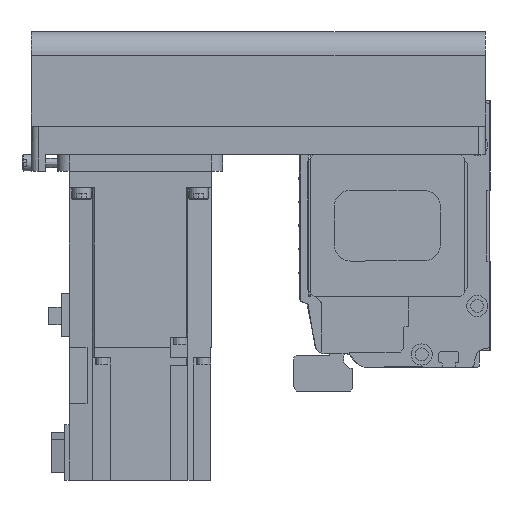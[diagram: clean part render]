
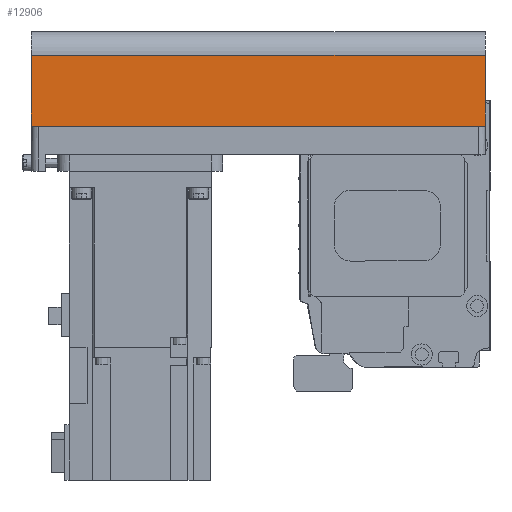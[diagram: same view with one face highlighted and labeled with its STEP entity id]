
A CAD part, left-side view. The second image highlights one B-rep face of the part: STEP entity #12906.
In plain terms, the highlighted planar face has unit normal (-1, 0, 0) as drawn and (0, 1, 0) by its records, which use the part's own axes.
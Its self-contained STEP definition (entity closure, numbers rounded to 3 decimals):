
#2303=ORIENTED_EDGE('',*,*,#5213,.F.);
#2304=ORIENTED_EDGE('',*,*,#5245,.F.);
#2305=ORIENTED_EDGE('',*,*,#5200,.T.);
#2306=ORIENTED_EDGE('',*,*,#5185,.T.);
#5185=EDGE_CURVE('',#6799,#6800,#8099,.T.);
#5200=EDGE_CURVE('',#6811,#6799,#8112,.T.);
#5213=EDGE_CURVE('',#6821,#6800,#8121,.T.);
#5245=EDGE_CURVE('',#6811,#6821,#8133,.T.);
#6799=VERTEX_POINT('',#20195);
#6800=VERTEX_POINT('',#20196);
#6811=VERTEX_POINT('',#20224);
#6821=VERTEX_POINT('',#20251);
#8099=LINE('',#20194,#9327);
#8112=LINE('',#20223,#9340);
#8121=LINE('',#20250,#9349);
#8133=LINE('',#20305,#9361);
#9327=VECTOR('',#16190,1000.);
#9340=VECTOR('',#16211,1000.);
#9349=VECTOR('',#16236,1000.);
#9361=VECTOR('',#16314,1000.);
#10416=EDGE_LOOP('',(#2303,#2304,#2305,#2306));
#11454=FACE_BOUND('',#10416,.T.);
#12325=PLANE('',#13925);
#12906=ADVANCED_FACE('',(#11454),#12325,.T.);
#13925=AXIS2_PLACEMENT_3D('',#20304,#16312,#16313);
#16190=DIRECTION('',(1.,0.,0.));
#16211=DIRECTION('',(0.,0.,1.));
#16236=DIRECTION('',(0.,0.,1.));
#16312=DIRECTION('',(0.,1.,0.));
#16313=DIRECTION('',(0.,0.,1.));
#16314=DIRECTION('',(1.,0.,0.));
#20194=CARTESIAN_POINT('',(-192.,40.,-12.1));
#20195=CARTESIAN_POINT('',(-192.,40.,-12.1));
#20196=CARTESIAN_POINT('',(0.,40.,-12.1));
#20223=CARTESIAN_POINT('',(-192.,40.,-42.));
#20224=CARTESIAN_POINT('',(-192.,40.,-42.));
#20250=CARTESIAN_POINT('',(0.,40.,-42.));
#20251=CARTESIAN_POINT('',(0.,40.,-42.));
#20304=CARTESIAN_POINT('',(-192.,40.,-42.));
#20305=CARTESIAN_POINT('',(-192.,40.,-42.));
